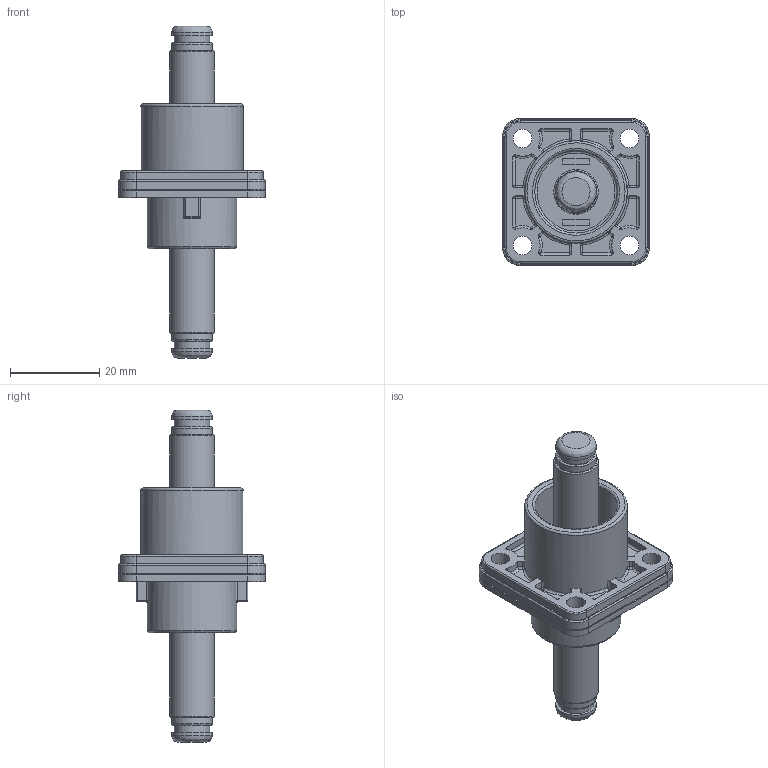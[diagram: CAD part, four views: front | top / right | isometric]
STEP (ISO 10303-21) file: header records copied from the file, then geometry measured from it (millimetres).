
FILE_DESCRIPTION (( 'STEP AP214' ), '1' );
FILE_NAME ('RL9100-30X-F1.STEP', '2015-07-03T05:41:30', ( '' ), ( '' ), 'SwSTEP 2.0', 'SolidWorks 2014', '' );
FILE_SCHEMA (( 'AUTOMOTIVE_DESIGN' ));
Length unit declared in the file: millimetre
Products named in the file (1): RL9100-30X-F1
Bounding box: 33 x 33 x 74.5 mm (x, y, z)
Volume: 14279.3 mm3; surface area: 8784.7 mm2
Topology: 1 solids, 1 shells, 324 faces, 783 edges, 445 vertices
Faces by surface type: cylinder 141, bspline 98, plane 84, cone 1
Full cylindrical faces by diameter (mm): 4.2 x4, 7.9 x2, 9.1 x4, 10 x2, 18 x1, 18.5 x1, 20.1 x1, 23 x1
Entity records: 14715 total; most frequent: CARTESIAN_POINT 4238, ORIENTED_EDGE 1438, DIRECTION 1421, EDGE_CURVE 719, AXIS2_PLACEMENT_3D 562, VERTEX_POINT 441, EDGE_LOOP 376, FACE_OUTER_BOUND 351
